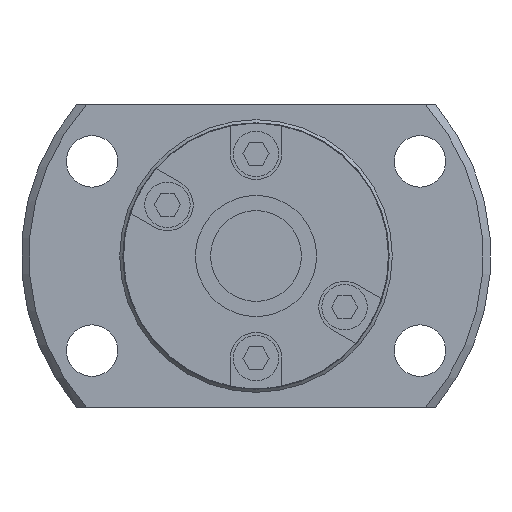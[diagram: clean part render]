
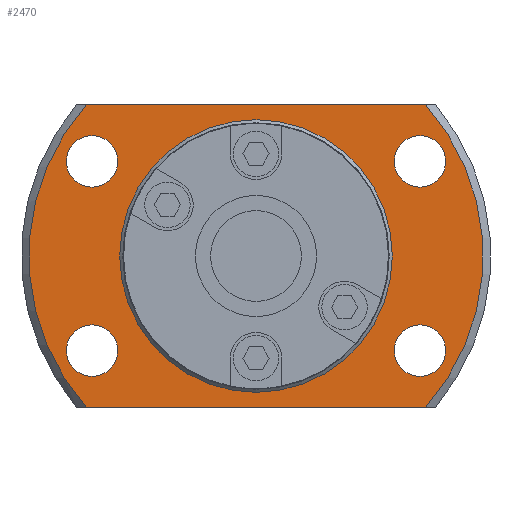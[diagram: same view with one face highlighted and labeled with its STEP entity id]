
A CAD part, left-side view. The second image highlights one B-rep face of the part: STEP entity #2470.
In plain terms, the highlighted planar face has unit normal (-1, 0, 0).
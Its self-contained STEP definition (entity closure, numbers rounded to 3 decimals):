
#140=LINE('',#3879,#366);
#141=LINE('',#3883,#367);
#366=VECTOR('',#3118,1000.);
#367=VECTOR('',#3121,1000.);
#690=ORIENTED_EDGE('',*,*,#1314,.F.);
#691=ORIENTED_EDGE('',*,*,#1315,.F.);
#692=ORIENTED_EDGE('',*,*,#1316,.F.);
#693=ORIENTED_EDGE('',*,*,#1317,.F.);
#694=ORIENTED_EDGE('',*,*,#1300,.F.);
#695=ORIENTED_EDGE('',*,*,#1318,.T.);
#696=ORIENTED_EDGE('',*,*,#1319,.F.);
#697=ORIENTED_EDGE('',*,*,#1320,.T.);
#698=ORIENTED_EDGE('',*,*,#1313,.T.);
#1300=EDGE_CURVE('',#1623,#1624,#1821,.T.);
#1313=EDGE_CURVE('',#1635,#1635,#1829,.T.);
#1314=EDGE_CURVE('',#1636,#1636,#1830,.F.);
#1315=EDGE_CURVE('',#1637,#1637,#1831,.F.);
#1316=EDGE_CURVE('',#1638,#1638,#1832,.F.);
#1317=EDGE_CURVE('',#1639,#1639,#1833,.F.);
#1318=EDGE_CURVE('',#1623,#1640,#140,.T.);
#1319=EDGE_CURVE('',#1641,#1640,#1834,.T.);
#1320=EDGE_CURVE('',#1641,#1624,#141,.T.);
#1623=VERTEX_POINT('',#3827);
#1624=VERTEX_POINT('',#3829);
#1635=VERTEX_POINT('',#3869);
#1636=VERTEX_POINT('',#3872);
#1637=VERTEX_POINT('',#3874);
#1638=VERTEX_POINT('',#3876);
#1639=VERTEX_POINT('',#3878);
#1640=VERTEX_POINT('',#3880);
#1641=VERTEX_POINT('',#3882);
#1821=CIRCLE('',#2689,15.);
#1829=CIRCLE('',#2704,8.85);
#1830=CIRCLE('',#2706,1.7);
#1831=CIRCLE('',#2707,1.7);
#1832=CIRCLE('',#2708,1.7);
#1833=CIRCLE('',#2709,1.7);
#1834=CIRCLE('',#2710,15.);
#1944=EDGE_LOOP('',(#690));
#1945=EDGE_LOOP('',(#691));
#1946=EDGE_LOOP('',(#692));
#1947=EDGE_LOOP('',(#693));
#1948=EDGE_LOOP('',(#694,#695,#696,#697));
#1949=EDGE_LOOP('',(#698));
#2168=FACE_BOUND('',#1944,.T.);
#2169=FACE_BOUND('',#1945,.T.);
#2170=FACE_BOUND('',#1946,.T.);
#2171=FACE_BOUND('',#1947,.T.);
#2172=FACE_BOUND('',#1948,.T.);
#2173=FACE_BOUND('',#1949,.T.);
#2344=PLANE('',#2705);
#2470=ADVANCED_FACE('',(#2168,#2169,#2170,#2171,#2172,#2173),#2344,.F.);
#2689=AXIS2_PLACEMENT_3D('',#3828,#3074,#3075);
#2704=AXIS2_PLACEMENT_3D('',#3868,#3106,#3107);
#2705=AXIS2_PLACEMENT_3D('',#3870,#3108,#3109);
#2706=AXIS2_PLACEMENT_3D('',#3871,#3110,#3111);
#2707=AXIS2_PLACEMENT_3D('',#3873,#3112,#3113);
#2708=AXIS2_PLACEMENT_3D('',#3875,#3114,#3115);
#2709=AXIS2_PLACEMENT_3D('',#3877,#3116,#3117);
#2710=AXIS2_PLACEMENT_3D('',#3881,#3119,#3120);
#3074=DIRECTION('',(1.,0.,0.));
#3075=DIRECTION('',(0.,0.,-1.));
#3106=DIRECTION('',(1.,0.,0.));
#3107=DIRECTION('',(0.,0.,-1.));
#3108=DIRECTION('',(1.,0.,0.));
#3109=DIRECTION('',(0.,0.,-1.));
#3110=DIRECTION('',(1.,0.,0.));
#3111=DIRECTION('',(0.,0.,-1.));
#3112=DIRECTION('',(1.,0.,0.));
#3113=DIRECTION('',(0.,0.,-1.));
#3114=DIRECTION('',(1.,0.,0.));
#3115=DIRECTION('',(0.,0.,-1.));
#3116=DIRECTION('',(1.,0.,0.));
#3117=DIRECTION('',(0.,0.,-1.));
#3118=DIRECTION('',(0.,-1.,0.));
#3119=DIRECTION('',(1.,0.,0.));
#3120=DIRECTION('',(0.,0.,-1.));
#3121=DIRECTION('',(0.,1.,0.));
#3827=CARTESIAN_POINT('',(17.,11.18,-10.));
#3828=CARTESIAN_POINT('',(17.,0.,0.));
#3829=CARTESIAN_POINT('',(17.,11.18,10.));
#3868=CARTESIAN_POINT('',(17.,0.,0.));
#3869=CARTESIAN_POINT('',(17.,0.,-8.85));
#3870=CARTESIAN_POINT('',(17.,8.85,0.));
#3871=CARTESIAN_POINT('',(17.,-10.825,-6.25));
#3872=CARTESIAN_POINT('',(17.,-10.825,-7.95));
#3873=CARTESIAN_POINT('',(17.,-10.825,6.25));
#3874=CARTESIAN_POINT('',(17.,-10.825,4.55));
#3875=CARTESIAN_POINT('',(17.,10.825,-6.25));
#3876=CARTESIAN_POINT('',(17.,10.825,-7.95));
#3877=CARTESIAN_POINT('',(17.,10.825,6.25));
#3878=CARTESIAN_POINT('',(17.,10.825,4.55));
#3879=CARTESIAN_POINT('',(17.,8.85,-10.));
#3880=CARTESIAN_POINT('',(17.,-11.18,-10.));
#3881=CARTESIAN_POINT('',(17.,0.,0.));
#3882=CARTESIAN_POINT('',(17.,-11.18,10.));
#3883=CARTESIAN_POINT('',(17.,8.85,10.));
